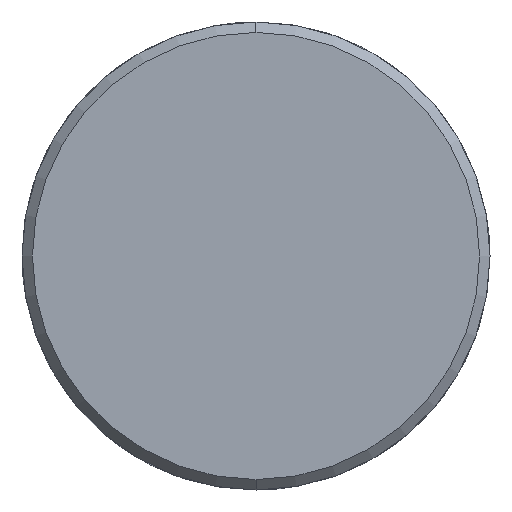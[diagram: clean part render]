
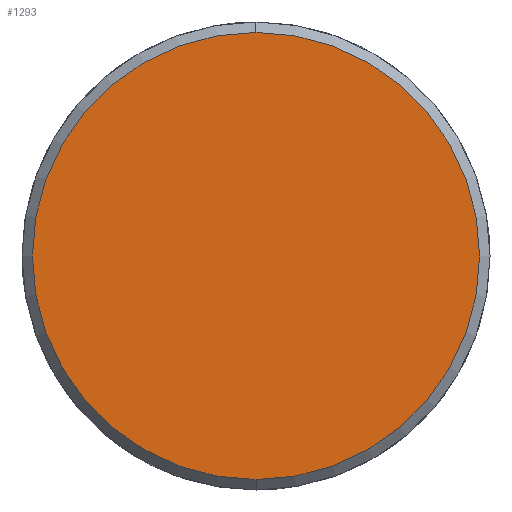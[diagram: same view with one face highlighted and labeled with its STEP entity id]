
A CAD part, left-side view. The second image highlights one B-rep face of the part: STEP entity #1293.
In plain terms, the highlighted planar face has unit normal (-1, 0, 0).
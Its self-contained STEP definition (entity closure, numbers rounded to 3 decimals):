
#1225=CARTESIAN_POINT('Vertex',(-7.,0.,-21.5)) ;
#1228=CARTESIAN_POINT('Axis2P3D Location',(-7.,0.,0.)) ;
#1232=CARTESIAN_POINT('Vertex',(-7.,21.5,0.)) ;
#1235=CARTESIAN_POINT('Axis2P3D Location',(-7.,0.,0.)) ;
#1239=CARTESIAN_POINT('Vertex',(-7.,0.,21.5)) ;
#1261=CARTESIAN_POINT('Axis2P3D Location',(-7.,0.,0.)) ;
#1265=CARTESIAN_POINT('Vertex',(-7.,-21.5,0.)) ;
#1268=CARTESIAN_POINT('Axis2P3D Location',(-7.,0.,0.)) ;
#1282=CARTESIAN_POINT('Axis2P3D Location',(-7.,0.,0.)) ;
#1229=DIRECTION('Axis2P3D Direction',(1.,0.,-0.)) ;
#1236=DIRECTION('Axis2P3D Direction',(1.,0.,-0.)) ;
#1262=DIRECTION('Axis2P3D Direction',(1.,0.,-0.)) ;
#1269=DIRECTION('Axis2P3D Direction',(1.,0.,-0.)) ;
#1283=DIRECTION('Axis2P3D Direction',(1.,0.,-0.)) ;
#1284=DIRECTION('Axis2P3D XDirection',(-0.,0.,-1.)) ;
#1230=AXIS2_PLACEMENT_3D('Circle Axis2P3D',#1228,#1229,$) ;
#1237=AXIS2_PLACEMENT_3D('Circle Axis2P3D',#1235,#1236,$) ;
#1263=AXIS2_PLACEMENT_3D('Circle Axis2P3D',#1261,#1262,$) ;
#1270=AXIS2_PLACEMENT_3D('Circle Axis2P3D',#1268,#1269,$) ;
#1285=AXIS2_PLACEMENT_3D('Plane Axis2P3D',#1282,#1283,#1284) ;
#1288=ORIENTED_EDGE('',*,*,#1234,.F.) ;
#1289=ORIENTED_EDGE('',*,*,#1272,.F.) ;
#1290=ORIENTED_EDGE('',*,*,#1267,.F.) ;
#1291=ORIENTED_EDGE('',*,*,#1241,.F.) ;
#1293=ADVANCED_FACE('351-32X46X120',(#1292),#1286,.F.) ;
#1231=CIRCLE('generated circle',#1230,21.5) ;
#1238=CIRCLE('generated circle',#1237,21.5) ;
#1264=CIRCLE('generated circle',#1263,21.5) ;
#1271=CIRCLE('generated circle',#1270,21.5) ;
#1234=EDGE_CURVE('',#1226,#1233,#1231,.T.) ;
#1241=EDGE_CURVE('',#1233,#1240,#1238,.T.) ;
#1267=EDGE_CURVE('',#1240,#1266,#1264,.T.) ;
#1272=EDGE_CURVE('',#1266,#1226,#1271,.T.) ;
#1287=EDGE_LOOP('',(#1288,#1289,#1290,#1291)) ;
#1292=FACE_OUTER_BOUND('',#1287,.T.) ;
#1286=PLANE('Plane',#1285) ;
#1226=VERTEX_POINT('',#1225) ;
#1233=VERTEX_POINT('',#1232) ;
#1240=VERTEX_POINT('',#1239) ;
#1266=VERTEX_POINT('',#1265) ;
